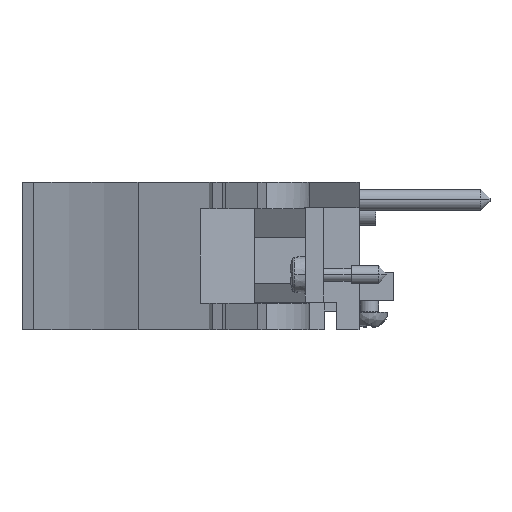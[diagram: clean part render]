
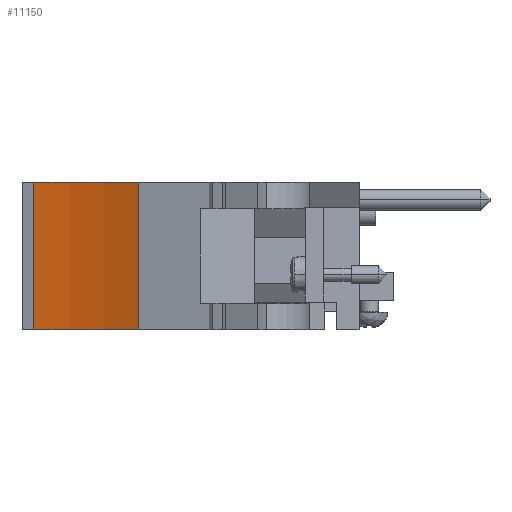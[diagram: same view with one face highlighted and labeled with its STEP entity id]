
A CAD part, front view. The second image highlights one B-rep face of the part: STEP entity #11150.
In plain terms, the highlighted cylindrical face has radius 51.46 mm (diameter 102.919 mm), a partial arc.
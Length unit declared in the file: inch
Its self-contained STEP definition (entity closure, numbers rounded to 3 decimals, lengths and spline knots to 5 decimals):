
#495=CARTESIAN_POINT('',(-1.97633,-5.95079,0.695));
#496=DIRECTION('',(0.,0.,1.));
#497=DIRECTION('',(0.435,0.9,0.));
#498=AXIS2_PLACEMENT_3D('',#495,#496,#497);
#840=CARTESIAN_POINT('',(-1.97633,-5.95079,-0.093));
#841=DIRECTION('',(0.,0.,1.));
#842=DIRECTION('',(0.435,0.9,0.));
#843=AXIS2_PLACEMENT_3D('',#840,#841,#842);
#1058=DIRECTION('',(0.,0.,1.));
#1059=VECTOR('',#1058,0.788);
#1060=CARTESIAN_POINT('',(-1.653,-3.95079,-0.093));
#1061=LINE('',#1060,#1059);
#1066=DIRECTION('',(0.,0.,1.));
#1067=VECTOR('',#1066,0.788);
#1068=CARTESIAN_POINT('',(-1.09503,-4.12655,-0.093));
#1069=LINE('',#1068,#1067);
#8068=CARTESIAN_POINT('',(-1.09503,-4.12655,-0.093));
#8069=CARTESIAN_POINT('',(-1.653,-3.95079,-0.093));
#8070=VERTEX_POINT('',#8068);
#8071=VERTEX_POINT('',#8069);
#8072=CARTESIAN_POINT('',(-1.09503,-4.12655,0.695));
#8073=CARTESIAN_POINT('',(-1.653,-3.95079,0.695));
#8074=VERTEX_POINT('',#8072);
#8075=VERTEX_POINT('',#8073);
#11138=CARTESIAN_POINT('',(-1.97633,-5.95079,0.695));
#11139=DIRECTION('',(0.,0.,1.));
#11140=DIRECTION('',(0.,1.,0.));
#11141=AXIS2_PLACEMENT_3D('',#11138,#11139,#11140);
#11142=CYLINDRICAL_SURFACE('',#11141,2.02597);
#11143=ORIENTED_EDGE('',*,*,#10856,.T.);
#11144=ORIENTED_EDGE('',*,*,#11130,.T.);
#11145=ORIENTED_EDGE('',*,*,#10405,.F.);
#11147=ORIENTED_EDGE('',*,*,#11146,.F.);
#11148=EDGE_LOOP('',(#11143,#11144,#11145,#11147));
#11149=FACE_OUTER_BOUND('',#11148,.F.);
#11150=ADVANCED_FACE('',(#11149),#11142,.F.);
#499=CIRCLE('',#498,2.02597);
#844=CIRCLE('',#843,2.02597);
#10405=EDGE_CURVE('',#8074,#8075,#499,.T.);
#10856=EDGE_CURVE('',#8070,#8071,#844,.T.);
#11130=EDGE_CURVE('',#8071,#8075,#1061,.T.);
#11146=EDGE_CURVE('',#8070,#8074,#1069,.T.);
